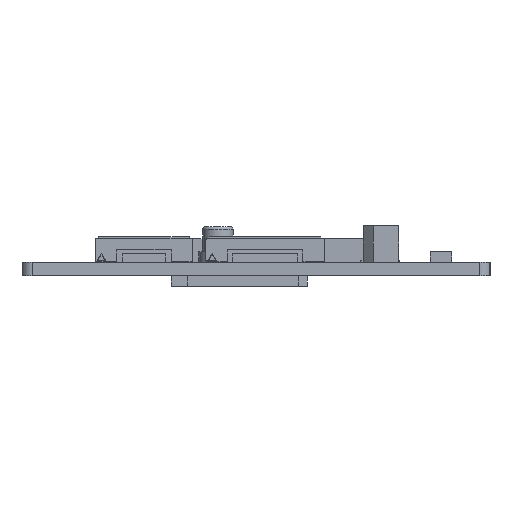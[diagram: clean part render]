
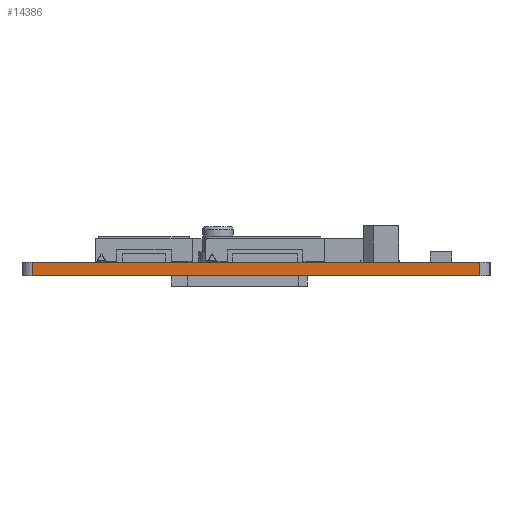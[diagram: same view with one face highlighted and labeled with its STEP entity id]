
A CAD part, left-side view. The second image highlights one B-rep face of the part: STEP entity #14386.
In plain terms, the highlighted planar face has unit normal (-1, 0, 0).
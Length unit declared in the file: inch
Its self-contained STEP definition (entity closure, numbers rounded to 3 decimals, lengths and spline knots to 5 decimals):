
#51 = VERTEX_POINT ( 'NONE', #13002 ) ;
#1293 = VERTEX_POINT ( 'NONE', #9361 ) ;
#2302 = DIRECTION ( 'NONE',  ( 0., 1., 0. ) ) ;
#2360 = CARTESIAN_POINT ( 'NONE',  ( -1.8, -1.075, -0.06 ) ) ;
#3168 = FACE_OUTER_BOUND ( 'NONE', #9645, .T. ) ;
#3886 = EDGE_CURVE ( 'NONE', #17638, #51, #4467, .T. ) ;
#4289 = VECTOR ( 'NONE', #2302, 39.37008 ) ;
#4467 = LINE ( 'NONE', #2360, #4289 ) ;
#4714 = ORIENTED_EDGE ( 'NONE', *, *, #18223, .T. ) ;
#5161 = DIRECTION ( 'NONE',  ( 0., 0., 1. ) ) ;
#5302 = CARTESIAN_POINT ( 'NONE',  ( -1.8, -1.028, -0.06 ) ) ;
#5595 = DIRECTION ( 'NONE',  ( 0., 0., -1. ) ) ;
#5691 = CARTESIAN_POINT ( 'NONE',  ( -1.8, 1.028, -0.06 ) ) ;
#5952 = ORIENTED_EDGE ( 'NONE', *, *, #18159, .T. ) ;
#7487 = ORIENTED_EDGE ( 'NONE', *, *, #15767, .T. ) ;
#9361 = CARTESIAN_POINT ( 'NONE',  ( -1.8, -1.028, 0. ) ) ;
#9488 = CARTESIAN_POINT ( 'NONE',  ( -1.8, -1.028, -0.06 ) ) ;
#9645 = EDGE_LOOP ( 'NONE', ( #7487, #5952, #15177, #4714 ) ) ;
#9973 = VECTOR ( 'NONE', #5161, 39.37008 ) ;
#10207 = LINE ( 'NONE', #5302, #9973 ) ;
#12361 = VECTOR ( 'NONE', #5595, 39.37008 ) ;
#12405 = LINE ( 'NONE', #5691, #12361 ) ;
#13002 = CARTESIAN_POINT ( 'NONE',  ( -1.8, 1.028, -0.06 ) ) ;
#13642 = CARTESIAN_POINT ( 'NONE',  ( -1.8, -1.075, 0. ) ) ;
#14081 = DIRECTION ( 'NONE',  ( 0., -1., 0. ) ) ;
#14083 = DIRECTION ( 'NONE',  ( 1., 0., 0. ) ) ;
#14247 = PLANE ( 'NONE',  #15502 ) ;
#14291 = CARTESIAN_POINT ( 'NONE',  ( -1.8, -1.075, -0.06 ) ) ;
#14386 = ADVANCED_FACE ( 'NONE', ( #3168 ), #14247, .F. ) ;
#15177 = ORIENTED_EDGE ( 'NONE', *, *, #3886, .F. ) ;
#15502 = AXIS2_PLACEMENT_3D ( 'NONE', #14291, #14083, #14081 ) ;
#15738 = CARTESIAN_POINT ( 'NONE',  ( -1.8, 1.028, 0. ) ) ;
#15767 = EDGE_CURVE ( 'NONE', #1293, #15829, #19426, .T. ) ;
#15829 = VERTEX_POINT ( 'NONE', #15738 ) ;
#17638 = VERTEX_POINT ( 'NONE', #9488 ) ;
#18159 = EDGE_CURVE ( 'NONE', #15829, #51, #12405, .T. ) ;
#18223 = EDGE_CURVE ( 'NONE', #17638, #1293, #10207, .T. ) ;
#19064 = DIRECTION ( 'NONE',  ( 0., 1., 0. ) ) ;
#19426 = LINE ( 'NONE', #13642, #19574 ) ;
#19574 = VECTOR ( 'NONE', #19064, 39.37008 ) ;
